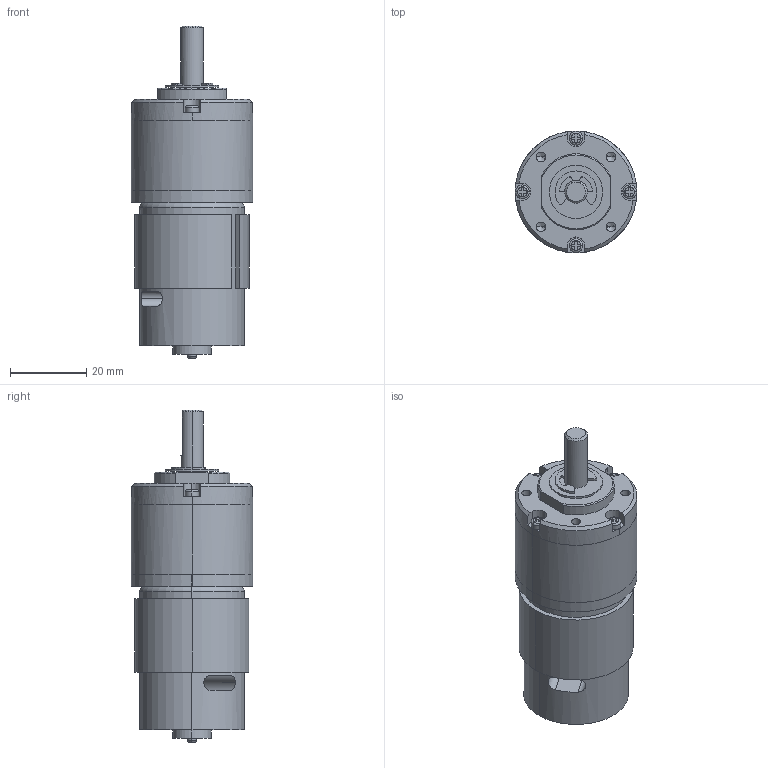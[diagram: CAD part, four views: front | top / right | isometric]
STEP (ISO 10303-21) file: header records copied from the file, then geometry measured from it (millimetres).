
FILE_DESCRIPTION((''),' ');
FILE_NAME('DSMP320_2_18.10.2016_rl.stp',' ',('R. Lindner'),('MSW GmbH'),' ','ACIS 14.0',' ');
FILE_SCHEMA(('automotive_design'));
Length unit declared in the file: inch
Products named in the file (5): DSMP320-01&02|NAUO1#DSMP320-00;M2 Á³¯¾¤Õ1[1]; DSMP320-01&02|NAUO1#DSMP320-00;M3 Á³¯¾¤Õ1[2]; DSMP320-01&02|NAUO1#DSMP320-00;M2 Á³¯¾¤Õ1[2]; DSMP320-01&02|NAUO2#DSMP320-01&02-°¨¹F;¶ñ®Æ-¦ùªø1; DSMP320-01&02|NAUO2#DSMP320-01&02-°¨¹F;°£®Æ-¦ùªø1
Bounding box: 32 x 32 x 87.27 mm (x, y, z)
Volume: 52007.1 mm3; surface area: 18909.8 mm2
Topology: 5 solids, 5 shells, 318 faces, 822 edges, 529 vertices
Faces by surface type: cylinder 163, plane 114, cone 29, torus 12
Entity records: 12695 total; most frequent: CARTESIAN_POINT 1970, DIRECTION 1803, ORIENTED_EDGE 1612, EDGE_CURVE 806, AXIS2_PLACEMENT_3D 704, VERTEX_POINT 529, LINE 395, VECTOR 395
